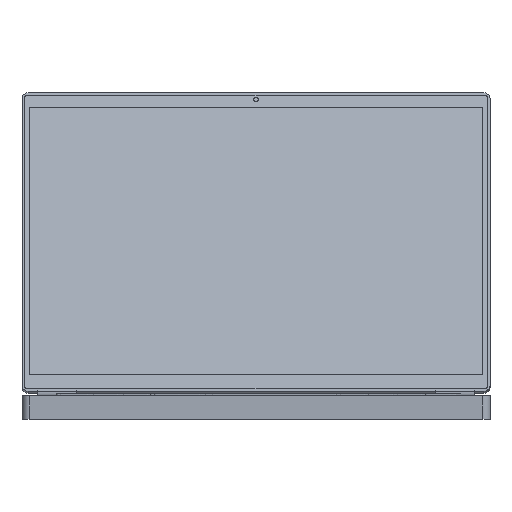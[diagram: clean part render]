
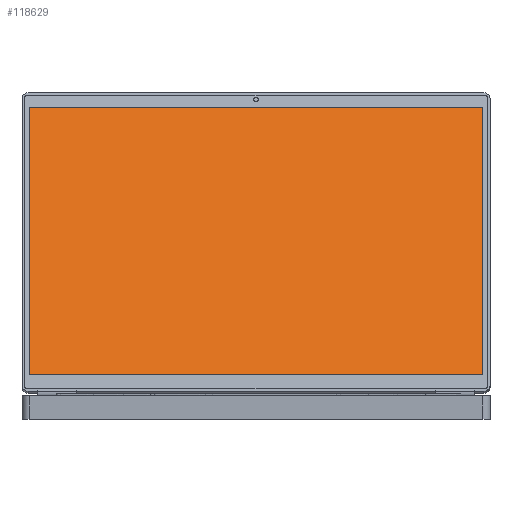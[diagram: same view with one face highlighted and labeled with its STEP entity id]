
A CAD part, front view. The second image highlights one B-rep face of the part: STEP entity #118629.
In plain terms, the highlighted planar face has unit normal (0, -0.94, 0.342).
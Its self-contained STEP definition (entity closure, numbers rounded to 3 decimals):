
#118315 = VERTEX_POINT('',#118316);
#118316 = CARTESIAN_POINT('',(-150.774,107.12,
    30.026));
#118323 = PLANE('',#118324);
#118324 = AXIS2_PLACEMENT_3D('',#118325,#118326,#118327);
#118325 = CARTESIAN_POINT('',(-150.774,107.242,
    29.982));
#118326 = DIRECTION('',(1.,0.,0.));
#118327 = DIRECTION('',(0.,-0.94,0.342));
#118335 = PLANE('',#118336);
#118336 = AXIS2_PLACEMENT_3D('',#118337,#118338,#118339);
#118337 = CARTESIAN_POINT('',(-150.774,107.242,
    29.982));
#118338 = DIRECTION('',(0.,0.342,0.94));
#118339 = DIRECTION('',(0.,-0.94,0.342));
#118376 = VERTEX_POINT('',#118377);
#118377 = CARTESIAN_POINT('',(-150.774,171.58,
    207.128));
#118391 = PLANE('',#118392);
#118392 = AXIS2_PLACEMENT_3D('',#118393,#118394,#118395);
#118393 = CARTESIAN_POINT('',(-150.774,171.702,
    207.084));
#118394 = DIRECTION('',(0.,0.342,0.94));
#118395 = DIRECTION('',(0.,-0.94,0.342));
#118403 = EDGE_CURVE('',#118315,#118376,#118404,.T.);
#118404 = SURFACE_CURVE('',#118405,(#118409,#118416),.PCURVE_S1.);
#118405 = LINE('',#118406,#118407);
#118406 = CARTESIAN_POINT('',(-150.774,107.12,
    30.026));
#118407 = VECTOR('',#118408,1.);
#118408 = DIRECTION('',(0.,0.342,0.94));
#118409 = PCURVE('',#118323,#118410);
#118410 = DEFINITIONAL_REPRESENTATION('',(#118411),#118415);
#118411 = LINE('',#118412,#118413);
#118412 = CARTESIAN_POINT('',(0.13,0.));
#118413 = VECTOR('',#118414,1.);
#118414 = DIRECTION('',(0.,-1.));
#118415 = ( GEOMETRIC_REPRESENTATION_CONTEXT(2) 
PARAMETRIC_REPRESENTATION_CONTEXT() REPRESENTATION_CONTEXT('2D SPACE',''
  ) );
#118416 = PCURVE('',#118417,#118422);
#118417 = PLANE('',#118418);
#118418 = AXIS2_PLACEMENT_3D('',#118419,#118420,#118421);
#118419 = CARTESIAN_POINT('',(-150.774,107.12,
    30.026));
#118420 = DIRECTION('',(0.,-0.94,0.342));
#118421 = DIRECTION('',(1.,0.,0.));
#118422 = DEFINITIONAL_REPRESENTATION('',(#118423),#118427);
#118423 = LINE('',#118424,#118425);
#118424 = CARTESIAN_POINT('',(0.,0.));
#118425 = VECTOR('',#118426,1.);
#118426 = DIRECTION('',(0.,1.));
#118427 = ( GEOMETRIC_REPRESENTATION_CONTEXT(2) 
PARAMETRIC_REPRESENTATION_CONTEXT() REPRESENTATION_CONTEXT('2D SPACE',''
  ) );
#118435 = VERTEX_POINT('',#118436);
#118436 = CARTESIAN_POINT('',(150.774,107.12,
    30.026));
#118443 = PLANE('',#118444);
#118444 = AXIS2_PLACEMENT_3D('',#118445,#118446,#118447);
#118445 = CARTESIAN_POINT('',(150.774,107.242,
    29.982));
#118446 = DIRECTION('',(1.,0.,0.));
#118447 = DIRECTION('',(0.,-0.94,0.342));
#118486 = VERTEX_POINT('',#118487);
#118487 = CARTESIAN_POINT('',(150.774,171.58,
    207.128));
#118508 = EDGE_CURVE('',#118435,#118486,#118509,.T.);
#118509 = SURFACE_CURVE('',#118510,(#118514,#118521),.PCURVE_S1.);
#118510 = LINE('',#118511,#118512);
#118511 = CARTESIAN_POINT('',(150.774,107.12,
    30.026));
#118512 = VECTOR('',#118513,1.);
#118513 = DIRECTION('',(0.,0.342,0.94));
#118514 = PCURVE('',#118443,#118515);
#118515 = DEFINITIONAL_REPRESENTATION('',(#118516),#118520);
#118516 = LINE('',#118517,#118518);
#118517 = CARTESIAN_POINT('',(0.13,0.));
#118518 = VECTOR('',#118519,1.);
#118519 = DIRECTION('',(0.,-1.));
#118520 = ( GEOMETRIC_REPRESENTATION_CONTEXT(2) 
PARAMETRIC_REPRESENTATION_CONTEXT() REPRESENTATION_CONTEXT('2D SPACE',''
  ) );
#118521 = PCURVE('',#118417,#118522);
#118522 = DEFINITIONAL_REPRESENTATION('',(#118523),#118527);
#118523 = LINE('',#118524,#118525);
#118524 = CARTESIAN_POINT('',(301.548,0.));
#118525 = VECTOR('',#118526,1.);
#118526 = DIRECTION('',(0.,1.));
#118527 = ( GEOMETRIC_REPRESENTATION_CONTEXT(2) 
PARAMETRIC_REPRESENTATION_CONTEXT() REPRESENTATION_CONTEXT('2D SPACE',''
  ) );
#118554 = EDGE_CURVE('',#118315,#118435,#118555,.T.);
#118555 = SURFACE_CURVE('',#118556,(#118560,#118567),.PCURVE_S1.);
#118556 = LINE('',#118557,#118558);
#118557 = CARTESIAN_POINT('',(-150.774,107.12,
    30.026));
#118558 = VECTOR('',#118559,1.);
#118559 = DIRECTION('',(1.,0.,0.));
#118560 = PCURVE('',#118335,#118561);
#118561 = DEFINITIONAL_REPRESENTATION('',(#118562),#118566);
#118562 = LINE('',#118563,#118564);
#118563 = CARTESIAN_POINT('',(0.13,0.));
#118564 = VECTOR('',#118565,1.);
#118565 = DIRECTION('',(0.,1.));
#118566 = ( GEOMETRIC_REPRESENTATION_CONTEXT(2) 
PARAMETRIC_REPRESENTATION_CONTEXT() REPRESENTATION_CONTEXT('2D SPACE',''
  ) );
#118567 = PCURVE('',#118417,#118568);
#118568 = DEFINITIONAL_REPRESENTATION('',(#118569),#118573);
#118569 = LINE('',#118570,#118571);
#118570 = CARTESIAN_POINT('',(0.,0.));
#118571 = VECTOR('',#118572,1.);
#118572 = DIRECTION('',(1.,0.));
#118573 = ( GEOMETRIC_REPRESENTATION_CONTEXT(2) 
PARAMETRIC_REPRESENTATION_CONTEXT() REPRESENTATION_CONTEXT('2D SPACE',''
  ) );
#118601 = EDGE_CURVE('',#118376,#118486,#118602,.T.);
#118602 = SURFACE_CURVE('',#118603,(#118607,#118614),.PCURVE_S1.);
#118603 = LINE('',#118604,#118605);
#118604 = CARTESIAN_POINT('',(-150.774,171.58,
    207.128));
#118605 = VECTOR('',#118606,1.);
#118606 = DIRECTION('',(1.,0.,0.));
#118607 = PCURVE('',#118391,#118608);
#118608 = DEFINITIONAL_REPRESENTATION('',(#118609),#118613);
#118609 = LINE('',#118610,#118611);
#118610 = CARTESIAN_POINT('',(0.13,0.));
#118611 = VECTOR('',#118612,1.);
#118612 = DIRECTION('',(0.,1.));
#118613 = ( GEOMETRIC_REPRESENTATION_CONTEXT(2) 
PARAMETRIC_REPRESENTATION_CONTEXT() REPRESENTATION_CONTEXT('2D SPACE',''
  ) );
#118614 = PCURVE('',#118417,#118615);
#118615 = DEFINITIONAL_REPRESENTATION('',(#118616),#118620);
#118616 = LINE('',#118617,#118618);
#118617 = CARTESIAN_POINT('',(0.,188.468));
#118618 = VECTOR('',#118619,1.);
#118619 = DIRECTION('',(1.,0.));
#118620 = ( GEOMETRIC_REPRESENTATION_CONTEXT(2) 
PARAMETRIC_REPRESENTATION_CONTEXT() REPRESENTATION_CONTEXT('2D SPACE',''
  ) );
#118629 = ADVANCED_FACE('',(#118630),#118417,.T.);
#118630 = FACE_BOUND('',#118631,.T.);
#118631 = EDGE_LOOP('',(#118632,#118633,#118634,#118635));
#118632 = ORIENTED_EDGE('',*,*,#118403,.F.);
#118633 = ORIENTED_EDGE('',*,*,#118554,.T.);
#118634 = ORIENTED_EDGE('',*,*,#118508,.T.);
#118635 = ORIENTED_EDGE('',*,*,#118601,.F.);
